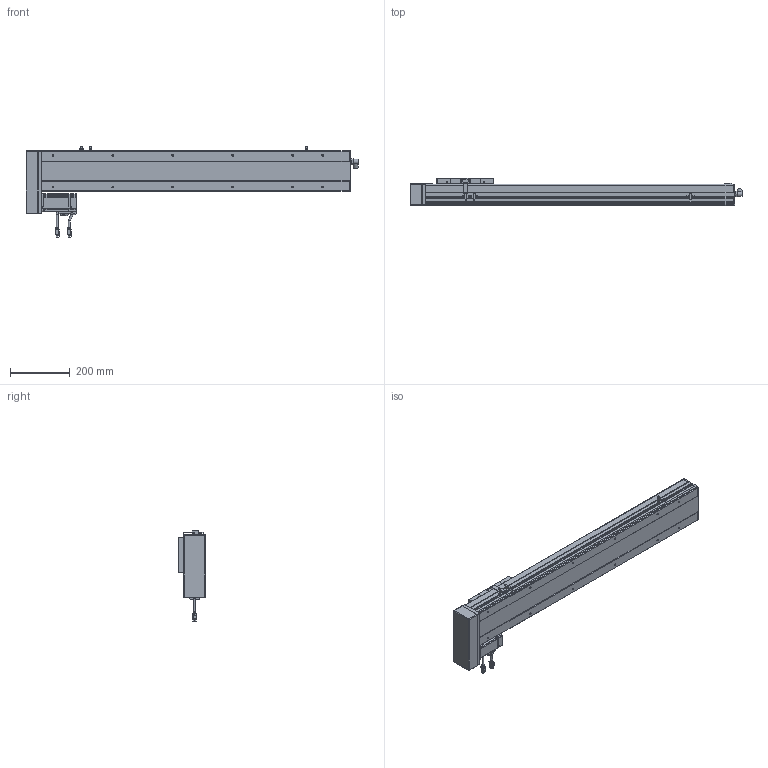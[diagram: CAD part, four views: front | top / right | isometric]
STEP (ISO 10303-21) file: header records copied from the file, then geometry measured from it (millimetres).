
FILE_DESCRIPTION(/* description */ ('STEP AP214'),/* implementation_level */ '2;1');
FILE_NAME(/* name */ 'PSC140-L05-S750-BR-P40-C1-N(0)',/* time_stamp */ '2022-06-13T03:35:27+02:00',/* author */ ('License CC BY-ND 4.0'),/* organization */ ('CADENAS'),/* preprocessor_version */ 'ST-DEVELOPER v18.102',/* originating_system */ 'PARTsolutions',/* authorisation */ ' ');
FILE_SCHEMA (('AUTOMOTIVE_DESIGN {1 0 10303 214 3 1 1}'));
Length unit declared in the file: millimetre
Products named in the file (11): PSC140-L05-S750-BR-P40-C1-N(0); P40-s2; P40-c2; P40-s1; P40-c1; P40-p1; PSC140-BR-body2; PSC140-sensor; PSC140-BR-SLIDER; PSC140-S750-BR-P40-C1_BODY1; PSC140-L05-S750-BR-P40-C1-N(0)_dummy
Assembly tree (12 placements, depth 2):
  PSC140-L05-S750-BR-P40-C1-N(0)
    P40-s2
    P40-c2
    P40-s1
    P40-c1
    P40-p1
    PSC140-BR-body2
    PSC140-sensor  x3
    PSC140-BR-SLIDER
    PSC140-S750-BR-P40-C1_BODY1
    PSC140-L05-S750-BR-P40-C1-N(0)_dummy
Bounding box: 1108 x 91 x 300.88 mm (x, y, z)
Volume: 11341334.9 mm3; surface area: 672547.4 mm2
Topology: 11 solids, 11 shells, 1231 faces, 3179 edges, 2103 vertices
Faces by surface type: plane 858, cylinder 314, cone 40, torus 19
Full cylindrical faces by diameter (mm): 1 x8, 2.6 x10, 2.8 x3, 3.3 x8, 4.5 x12, 4.6 x3, 4.917 x16, 5 x4, 5.5 x8, 6 x10, 7 x10, 9 x2, 10 x1, 11 x1, 12 x1, 13.74 x1, 14 x1, 16.4 x2, 16.5 x1, 36 x1, 50 x2
Entity records: 34086 total; most frequent: CARTESIAN_POINT 5953, DIRECTION 5731, ORIENTED_EDGE 5534, EDGE_CURVE 2767, LINE 2097, VECTOR 2097, VERTEX_POINT 1924, AXIS2_PLACEMENT_3D 1817
